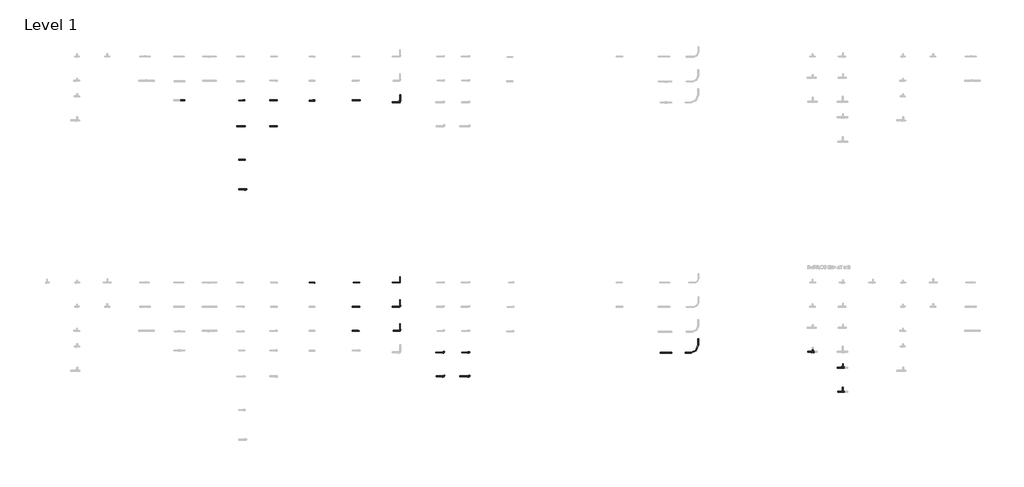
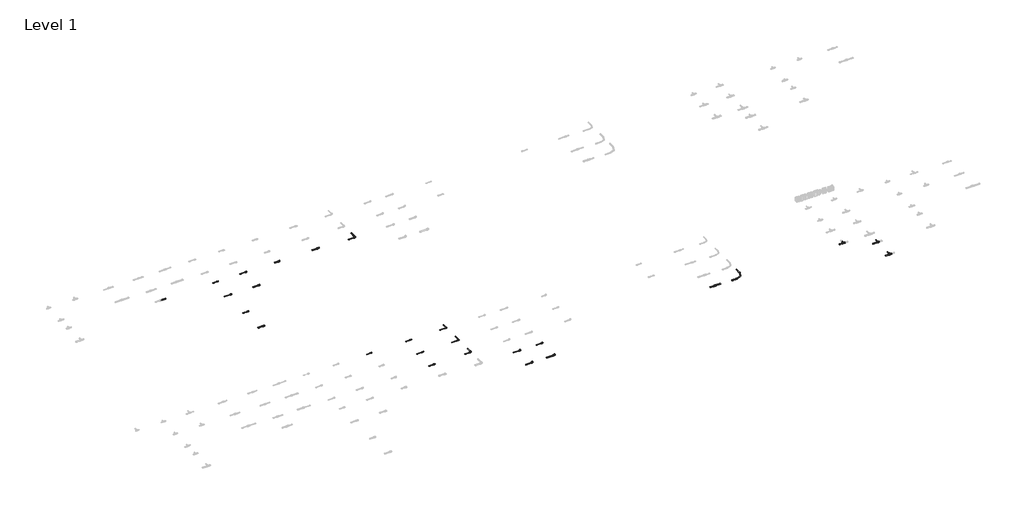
# One storey, part 4 of 16: 34 pipe segments, 26 pipe fittings.
"""IFC4 building model written with IfcOpenShell, lengths in millimetres."""

from ifc_helpers import new_model, si_unit, point, frame, frame_2d, origin, place, context, project, spatial, circle_curve, trimmed, segment, composite_curve, outline, extrude, transform, mapped, element, save
from components import pipe_fitting_5ed0d7cb, pipe_fitting_a2ce5f58, pipe_fitting_431f7250, pipe_fitting_a4fef31a, pipe_fitting_24cae873, pipe_fitting_792dd94b, pipe_fitting_a5f7744a, pipe_fitting_eea56ca5, pipe_fitting_715ab4bf, pipe_fitting_cb24982a, pipe_fitting_3031d961, pipe_fitting_ffedae39, pipe_fitting_7921c085, pipe_fitting_502111f3, pipe_fitting_137fcba6, pipe_fitting_792aeb1b, pipe_fitting_2cdc80e6, pipe_fitting_a8fbe6ac, pipe_fitting_fe659845, pipe_fitting_164b9098, pipe_fitting_15655edc, pipe_fitting_beb2161e, pipe_fitting_ca26b6f5, pipe_fitting_76e4ea32, pipe_fitting_18fcccac, pipe_fitting_1e296f3b

model = new_model("IFC4")

# Units and contexts
model_context = context("Model", 3, world=origin())
ifc_project = project(units=[si_unit("LENGTHUNIT", "METRE", prefix="MILLI")], contexts=[model_context])

# Site, building, storey
site = spatial("IfcSite", under=ifc_project)
building = spatial("IfcBuilding", under=site)
storey = spatial("IfcBuildingStorey", under=building, Name="Level 1", Elevation=0.0)

# Pipe fittings
placement = place(None, origin())
pipe_fitting_shape = pipe_fitting_5ed0d7cb(model_context)
element("IfcPipeFitting", 1, ObjectType="FASTLOC_Adapter_RX+, with external thread : FSL A C external EX+ DE", at=placement, inside=storey, context=model_context, shape_type="MappedRepresentation", body=[
    mapped(pipe_fitting_shape, transform((10098.2332092, -239.0537829, 0.0), x_axis=(1.0, 0.0, 0.0), y_axis=(0.0, 1.0, 0.0), z_axis=(0.0, 0.0, 1.0))),
])
pipe_fitting_2_shape = pipe_fitting_a2ce5f58(model_context)
element("IfcPipeFitting", 2, ObjectType="FASTLOC_Adapter_RX+, with external thread : FSL A C external EX+ DE", at=placement, inside=storey, context=model_context, shape_type="MappedRepresentation", body=[
    mapped(pipe_fitting_2_shape, transform((10110.8952889, -1099.407392, 0.0), x_axis=(1.0, 0.0, 0.0), y_axis=(0.0, 1.0, 0.0), z_axis=(0.0, 0.0, 1.0))),
])
pipe_fitting_3_shape = pipe_fitting_431f7250(model_context)
element("IfcPipeFitting", 3, ObjectType="FASTLOC_Adapter_RX+, with external thread : FSL A C external EX+ DE", at=placement, inside=storey, context=model_context, shape_type="MappedRepresentation", body=[
    mapped(pipe_fitting_3_shape, transform((10115.9601208, -2213.6704117, 0.0), x_axis=(1.0, 0.0, 0.0), y_axis=(0.0, 1.0, 0.0), z_axis=(0.0, 0.0, 1.0))),
])
pipe_fitting_4_shape = pipe_fitting_a4fef31a(model_context)
element("IfcPipeFitting", 4, ObjectType="FASTLOC_Adapter_RX+, with external thread : FSL A C external EX+ DE", at=placement, inside=storey, context=model_context, shape_type="MappedRepresentation", body=[
    mapped(pipe_fitting_4_shape, transform((10153.9463601, -3193.7153858, 0.0), x_axis=(1.0, 0.0, 0.0), y_axis=(0.0, 1.0, 0.0), z_axis=(0.0, 0.0, 1.0))),
])
pipe_fitting_5_shape = pipe_fitting_24cae873(model_context)
element("IfcPipeFitting", 5, ObjectType="FASTLOC_Corner EX+ : FSL C EX+ DE", at=placement, inside=storey, context=model_context, shape_type="MappedRepresentation", body=[
    mapped(pipe_fitting_5_shape, transform((15275.3824015, -304.9640428, 0.0), x_axis=(1.0, 0.0, 0.0), y_axis=(0.0, 1.0, 0.0), z_axis=(0.0, 0.0, 1.0))),
])
pipe_fitting_6_shape = pipe_fitting_792dd94b(model_context)
element("IfcPipeFitting", 6, ObjectType="FASTLOC_Corner EX+ : FSL C EX+ AT", at=placement, inside=storey, context=model_context, shape_type="MappedRepresentation", body=[
    mapped(pipe_fitting_6_shape, transform((15275.3824015, -7087.6479967, 0.0), x_axis=(1.0, 0.0, 0.0), y_axis=(0.0, 1.0, 0.0), z_axis=(0.0, 0.0, 1.0))),
])
pipe_fitting_7_shape = pipe_fitting_a5f7744a(model_context)
element("IfcPipeFitting", 7, ObjectType="FASTLOC_Corner EX+ : FSL C EX+ AT", at=placement, inside=storey, context=model_context, shape_type="MappedRepresentation", body=[
    mapped(pipe_fitting_7_shape, transform((15275.3824015, -7887.6479967, 0.0), x_axis=(1.0, 0.0, 0.0), y_axis=(0.0, 1.0, 0.0), z_axis=(0.0, 0.0, 1.0))),
])
pipe_fitting_8_shape = pipe_fitting_eea56ca5(model_context)
element("IfcPipeFitting", 8, ObjectType="FASTLOC_Elbow with female thread EX+ : FSL A internal AT", at=placement, inside=storey, context=model_context, shape_type="MappedRepresentation", body=[
    mapped(pipe_fitting_8_shape, transform((17573.8113057, -8604.9640428, 0.0), x_axis=(1.0, 0.0, 0.0), y_axis=(0.0, 1.0, 0.0), z_axis=(0.0, 0.0, 1.0))),
])
pipe_fitting_9_shape = pipe_fitting_715ab4bf(model_context)
element("IfcPipeFitting", 9, ObjectType="FASTLOC_Elbow with female thread EX+ : FSL A internal AT", at=placement, inside=storey, context=model_context, shape_type="MappedRepresentation", body=[
    mapped(pipe_fitting_9_shape, transform((17573.8113057, -9399.407392, 0.0), x_axis=(1.0, 0.0, 0.0), y_axis=(0.0, 1.0, 0.0), z_axis=(0.0, 0.0, 1.0))),
])
pipe_fitting_10_shape = pipe_fitting_cb24982a(model_context)
element("IfcPipeFitting", 10, ObjectType="FASTLOC_Elbow with male thread EX+ : FSL A internal AT", at=placement, inside=storey, context=model_context, shape_type="MappedRepresentation", body=[
    mapped(pipe_fitting_10_shape, transform((16735.3824015, -8604.9640428, 0.0), x_axis=(1.0, 0.0, 0.0), y_axis=(0.0, 1.0, 0.0), z_axis=(0.0, 0.0, 1.0))),
])
pipe_fitting_11_shape = pipe_fitting_3031d961(model_context)
element("IfcPipeFitting", 11, ObjectType="FASTLOC_Elbow with male thread EX+ : FSL A internal AT", at=placement, inside=storey, context=model_context, shape_type="MappedRepresentation", body=[
    mapped(pipe_fitting_11_shape, transform((16735.3824015, -9399.407392, 0.0), x_axis=(1.0, 0.0, 0.0), y_axis=(0.0, 1.0, 0.0), z_axis=(0.0, 0.0, 1.0))),
])
pipe_fitting_12_shape = pipe_fitting_ffedae39(model_context)
element("IfcPipeFitting", 12, ObjectType="FASTLOC_ML_bend : FSL ML DE", at=placement, inside=storey, context=model_context, shape_type="MappedRepresentation", body=[
    mapped(pipe_fitting_12_shape, transform((25170.2040344, -8611.8142398, 0.0), x_axis=(1.0, 0.0, 0.0), y_axis=(0.0, 1.0, 0.0), z_axis=(0.0, 0.0, 1.0))),
])
pipe_fitting_13_shape = pipe_fitting_7921c085(model_context)
element("IfcPipeFitting", 13, ObjectType="FASTLOC_T-piece_EX+ : FSL T-Piece EX+ AT", at=placement, inside=storey, context=model_context, shape_type="MappedRepresentation", body=[
    mapped(pipe_fitting_13_shape, transform((28962.9146925, -8587.6479967, 0.0), x_axis=(1.0, 0.0, 0.0), y_axis=(0.0, 1.0, 0.0), z_axis=(0.0, 0.0, 1.0))),
])
pipe_fitting_14_shape = pipe_fitting_502111f3(model_context)
element("IfcPipeFitting", 14, ObjectType="FASTLOC_T-piece_EX+ : FSL T-Piece EX+ AT", at=placement, inside=storey, context=model_context, shape_type="MappedRepresentation", body=[
    mapped(pipe_fitting_14_shape, transform((29962.9146925, -9107.6479967, 0.0), x_axis=(1.0, 0.0, 0.0), y_axis=(0.0, 1.0, 0.0), z_axis=(0.0, 0.0, 1.0))),
])
pipe_fitting_15_shape = pipe_fitting_137fcba6(model_context)
element("IfcPipeFitting", 15, ObjectType="FASTLOC_T-piece_EX+ : FSL T-Piece EX+ AT", at=placement, inside=storey, context=model_context, shape_type="MappedRepresentation", body=[
    mapped(pipe_fitting_15_shape, transform((29962.9146925, -9907.6479967, 0.0), x_axis=(1.0, 0.0, 0.0), y_axis=(0.0, 1.0, 0.0), z_axis=(0.0, 0.0, 1.0))),
])
pipe_fitting_16_shape = pipe_fitting_792aeb1b(model_context)
element("IfcPipeFitting", 16, ObjectType="FASTLOC_Corner EX+ : FSL C EX+ AT", at=placement, inside=storey, context=model_context, shape_type="MappedRepresentation", body=[
    mapped(pipe_fitting_16_shape, transform((15275.3824015, -6287.6479967, 0.0), x_axis=(1.0, 0.0, 0.0), y_axis=(0.0, 1.0, 0.0), z_axis=(0.0, 0.0, 1.0))),
])
pipe_fitting_17_shape = pipe_fitting_2cdc80e6(model_context)
element("IfcPipeFitting", 17, ObjectType="FASTLOC Copper press adapter RX+ : FSL RX+ AT", at=placement, inside=storey, context=model_context, shape_type="MappedRepresentation", body=[
    mapped(pipe_fitting_17_shape, transform((13915.3824015, -6287.6479967, 0.0), x_axis=(1.0, 0.0, 0.0), y_axis=(0.0, 1.0, 0.0), z_axis=(0.0, 0.0, 1.0))),
])
pipe_fitting_18_shape = pipe_fitting_a8fbe6ac(model_context)
element("IfcPipeFitting", 18, ObjectType="RAUTITAN_Sleeve PX : RTI S PX", at=placement, inside=storey, context=model_context, shape_type="MappedRepresentation", body=[
    mapped(pipe_fitting_18_shape, transform((24110.6241081, -8611.8142398, 13.7), x_axis=(1.0, 0.0, 0.0), y_axis=(0.0, 1.0, 0.0), z_axis=(0.0, 0.0, 1.0))),
])
pipe_fitting_19_shape = pipe_fitting_fe659845(model_context)
element("IfcPipeFitting", 19, ObjectType="FASTLOC Copper press adapter RX+ : FSL RX+ DE", at=placement, inside=storey, context=model_context, shape_type="MappedRepresentation", body=[
    mapped(pipe_fitting_19_shape, transform((13915.3824015, -239.0537829, 0.0), x_axis=(1.0, 0.0, 0.0), y_axis=(0.0, 1.0, 0.0), z_axis=(0.0, 0.0, 1.0))),
])
pipe_fitting_20_shape = pipe_fitting_164b9098(model_context)
element("IfcPipeFitting", 20, ObjectType="FASTLOC Copper press adapter RX+ : FSL RX+ AT", at=placement, inside=storey, context=model_context, shape_type="MappedRepresentation", body=[
    mapped(pipe_fitting_20_shape, transform((13915.3824015, -7087.6479967, 0.0), x_axis=(1.0, 0.0, 0.0), y_axis=(0.0, 1.0, 0.0), z_axis=(0.0, 0.0, 1.0))),
])
pipe_fitting_21_shape = pipe_fitting_15655edc(model_context)
element("IfcPipeFitting", 21, ObjectType="FASTLOC Copper press adapter RX+ : FSL RX+ AT", at=placement, inside=storey, context=model_context, shape_type="MappedRepresentation", body=[
    mapped(pipe_fitting_21_shape, transform((13895.3824015, -7887.6479967, 0.0), x_axis=(1.0, 0.0, 0.0), y_axis=(0.0, 1.0, 0.0), z_axis=(0.0, 0.0, 1.0))),
])
pipe_fitting_22_shape = pipe_fitting_beb2161e(model_context)
element("IfcPipeFitting", 22, ObjectType="FASTLOC_Adapter coupling EX+ : FSL TC EX+ AT", at=placement, inside=storey, context=model_context, shape_type="MappedRepresentation", body=[
    mapped(pipe_fitting_22_shape, transform((24091.3241081, -8611.8142398, 13.7), x_axis=(1.0, 0.0, 0.0), y_axis=(0.0, 1.0, 0.0), z_axis=(0.0, 0.0, 1.0))),
])
pipe_fitting_23_shape = pipe_fitting_ca26b6f5(model_context)
element("IfcPipeFitting", 23, ObjectType="FASTLOC_Adapter with union nut EX+ : FSL A union nut EX+ DE", at=placement, inside=storey, context=model_context, shape_type="MappedRepresentation", body=[
    mapped(pipe_fitting_23_shape, transform((12418.3503777, -6287.6479967, 0.0), x_axis=(1.0, 0.0, 0.0), y_axis=(0.0, 1.0, 0.0), z_axis=(0.0, 0.0, 1.0))),
])
pipe_fitting_24_shape = pipe_fitting_76e4ea32(model_context)
element("IfcPipeFitting", 24, ObjectType="FASTLOC_Adapter with union nut EX+ : FSL A union nut EX+ DE", at=placement, inside=storey, context=model_context, shape_type="MappedRepresentation", body=[
    mapped(pipe_fitting_24_shape, transform((12418.3503777, -247.0537829, 0.0), x_axis=(1.0, 0.0, 0.0), y_axis=(0.0, 1.0, 0.0), z_axis=(0.0, 0.0, 1.0))),
])
pipe_fitting_25_shape = pipe_fitting_18fcccac(model_context)
element("IfcPipeFitting", 25, ObjectType="FASTLOC_Adapter_EX+, with internal thread : FSL A internal DE", at=placement, inside=storey, context=model_context, shape_type="MappedRepresentation", body=[
    mapped(pipe_fitting_25_shape, transform((11179.5143796, -239.0537829, 0.0), x_axis=(1.0, 0.0, 0.0), y_axis=(0.0, 1.0, 0.0), z_axis=(0.0, 0.0, 1.0))),
])
pipe_fitting_26_shape = pipe_fitting_1e296f3b(model_context)
element("IfcPipeFitting", 26, ObjectType="FASTLOC_Adapter_EX+, with internal thread : FSL A internal DE", at=placement, inside=storey, context=model_context, shape_type="MappedRepresentation", body=[
    mapped(pipe_fitting_26_shape, transform((11179.5143796, -1099.407392, 0.0), x_axis=(1.0, 0.0, 0.0), y_axis=(0.0, 1.0, 0.0), z_axis=(0.0, 0.0, 1.0))),
])

# Pipe segments
element("IfcPipeSegment", 27, ObjectType="FASTLOC EX+ ML DE bar", at=placement, inside=storey, context=model_context, shape_type="SweptSolid", body=[
    extrude(outline(composite_curve([segment(trimmed(circle_curve(frame_2d((0.0, 15275.3824015)), 16.0), [point((0.0, 15291.3824015))], [point((16.0, 15275.3824015))], False, "CARTESIAN"), True, "CONTINUOUS"), segment(trimmed(circle_curve(frame_2d((0.0, 15275.3824015)), 16.0), [point((16.0, 15275.3824015))], [point((0.0, 15259.3824015))], False, "CARTESIAN"), True, "CONTINUOUS"), segment(trimmed(circle_curve(frame_2d((0.0, 15275.3824015)), 16.0), [point((0.0, 15259.3824015))], [point((-16.0, 15275.3824015))], False, "CARTESIAN"), True, "CONTINUOUS"), segment(trimmed(circle_curve(frame_2d((0.0, 15275.3824015)), 16.0), [point((-16.0, 15275.3824015))], [point((0.0, 15291.3824015))], False, "CARTESIAN"), True, "CONTINUOUS")], self_intersect=False)), frame((0.0, -269.9640428, 0.0), z_axis=(0.0, 1.0, 0.0), x_axis=(0.0, 0.0, 1.0)), (0.0, 0.0, 1.0), 220.0),
])
element("IfcPipeSegment", 28, ObjectType="FASTLOC EX+ ML DE bar", at=placement, inside=storey, context=model_context, shape_type="SweptSolid", body=[
    extrude(outline(composite_curve([segment(trimmed(circle_curve(frame_2d((-304.9640428, 0.0)), 16.0), [point((-288.9640428, 0.0))], [point((-304.9640428, -16.0))], False, "CARTESIAN"), True, "CONTINUOUS"), segment(trimmed(circle_curve(frame_2d((-304.9640428, 0.0)), 16.0), [point((-304.9640428, -16.0))], [point((-320.9640428, 0.0))], False, "CARTESIAN"), True, "CONTINUOUS"), segment(trimmed(circle_curve(frame_2d((-304.9640428, 0.0)), 16.0), [point((-320.9640428, 0.0))], [point((-304.9640428, 16.0))], False, "CARTESIAN"), True, "CONTINUOUS"), segment(trimmed(circle_curve(frame_2d((-304.9640428, 0.0)), 16.0), [point((-304.9640428, 16.0))], [point((-288.9640428, 0.0))], False, "CARTESIAN"), True, "CONTINUOUS")], self_intersect=False)), frame((15013.2824015, 0.0, 0.0), z_axis=(1.0, 0.0, 0.0), x_axis=(0.0, 1.0, 0.0)), (0.0, 0.0, 1.0), 227.1),
])
element("IfcPipeSegment", 29, ObjectType="FASTLOC EX+ ML DE bar", at=placement, inside=storey, context=model_context, shape_type="SweptSolid", body=[
    extrude(outline(composite_curve([segment(trimmed(circle_curve(frame_2d((-239.0537829, 0.0)), 16.0), [point((-223.0537829, 0.0))], [point((-239.0537829, -16.0))], False, "CARTESIAN"), True, "CONTINUOUS"), segment(trimmed(circle_curve(frame_2d((-239.0537829, 0.0)), 16.0), [point((-239.0537829, -16.0))], [point((-255.0537829, 0.0))], False, "CARTESIAN"), True, "CONTINUOUS"), segment(trimmed(circle_curve(frame_2d((-239.0537829, 0.0)), 16.0), [point((-255.0537829, 0.0))], [point((-239.0537829, 16.0))], False, "CARTESIAN"), True, "CONTINUOUS"), segment(trimmed(circle_curve(frame_2d((-239.0537829, 0.0)), 16.0), [point((-239.0537829, 16.0))], [point((-223.0537829, 0.0))], False, "CARTESIAN"), True, "CONTINUOUS")], self_intersect=False)), frame((13682.2824015, 0.0, 0.0), z_axis=(1.0, 0.0, 0.0), x_axis=(0.0, 1.0, 0.0)), (0.0, 0.0, 1.0), 220.0),
])
element("IfcPipeSegment", 30, ObjectType="FASTLOC EX+ ML DE bar", at=placement, inside=storey, context=model_context, shape_type="SweptSolid", body=[
    extrude(outline(composite_curve([segment(trimmed(circle_curve(frame_2d((-247.0537829, 0.0)), 16.0), [point((-231.0537829, 0.0))], [point((-247.0537829, -16.0))], False, "CARTESIAN"), True, "CONTINUOUS"), segment(trimmed(circle_curve(frame_2d((-247.0537829, 0.0)), 16.0), [point((-247.0537829, -16.0))], [point((-263.0537829, 0.0))], False, "CARTESIAN"), True, "CONTINUOUS"), segment(trimmed(circle_curve(frame_2d((-247.0537829, 0.0)), 16.0), [point((-263.0537829, 0.0))], [point((-247.0537829, 16.0))], False, "CARTESIAN"), True, "CONTINUOUS"), segment(trimmed(circle_curve(frame_2d((-247.0537829, 0.0)), 16.0), [point((-247.0537829, 16.0))], [point((-231.0537829, 0.0))], False, "CARTESIAN"), True, "CONTINUOUS")], self_intersect=False)), frame((12259.3503777, 0.0, 0.0), z_axis=(1.0, 0.0, 0.0), x_axis=(0.0, 1.0, 0.0)), (0.0, 0.0, 1.0), 147.5),
])
element("IfcPipeSegment", 31, ObjectType="FASTLOC EX+ ML DE bar", at=placement, inside=storey, context=model_context, shape_type="SweptSolid", body=[
    extrude(outline(composite_curve([segment(trimmed(circle_curve(frame_2d((-239.0537829, 0.0)), 12.5), [point((-226.5537829, 0.0))], [point((-239.0537829, -12.5))], False, "CARTESIAN"), True, "CONTINUOUS"), segment(trimmed(circle_curve(frame_2d((-239.0537829, 0.0)), 12.5), [point((-239.0537829, -12.5))], [point((-251.5537829, 0.0))], False, "CARTESIAN"), True, "CONTINUOUS"), segment(trimmed(circle_curve(frame_2d((-239.0537829, 0.0)), 12.5), [point((-251.5537829, 0.0))], [point((-239.0537829, 12.5))], False, "CARTESIAN"), True, "CONTINUOUS"), segment(trimmed(circle_curve(frame_2d((-239.0537829, 0.0)), 12.5), [point((-239.0537829, 12.5))], [point((-226.5537829, 0.0))], False, "CARTESIAN"), True, "CONTINUOUS")], self_intersect=False)), frame((10946.6143796, 0.0, 0.0), z_axis=(1.0, 0.0, 0.0), x_axis=(0.0, 1.0, 0.0)), (0.0, 0.0, 1.0), 220.0),
])
element("IfcPipeSegment", 32, ObjectType="FASTLOC EX+ ML DE bar", at=placement, inside=storey, context=model_context, shape_type="SweptSolid", body=[
    extrude(outline(composite_curve([segment(trimmed(circle_curve(frame_2d((-1099.407392, 0.0)), 16.0), [point((-1083.407392, 0.0))], [point((-1099.407392, -16.0))], False, "CARTESIAN"), True, "CONTINUOUS"), segment(trimmed(circle_curve(frame_2d((-1099.407392, 0.0)), 16.0), [point((-1099.407392, -16.0))], [point((-1115.407392, 0.0))], False, "CARTESIAN"), True, "CONTINUOUS"), segment(trimmed(circle_curve(frame_2d((-1099.407392, 0.0)), 16.0), [point((-1115.407392, 0.0))], [point((-1099.407392, 16.0))], False, "CARTESIAN"), True, "CONTINUOUS"), segment(trimmed(circle_curve(frame_2d((-1099.407392, 0.0)), 16.0), [point((-1099.407392, 16.0))], [point((-1083.407392, 0.0))], False, "CARTESIAN"), True, "CONTINUOUS")], self_intersect=False)), frame((10946.6143796, 0.0, 0.0), z_axis=(1.0, 0.0, 0.0), x_axis=(0.0, 1.0, 0.0)), (0.0, 0.0, 1.0), 218.4),
])
element("IfcPipeSegment", 33, ObjectType="FASTLOC EX+ ML DE bar", at=placement, inside=storey, context=model_context, shape_type="SweptSolid", body=[
    extrude(outline(composite_curve([segment(trimmed(circle_curve(frame_2d((-2213.6704117, 0.0)), 12.5), [point((-2201.1704117, 0.0))], [point((-2213.6704117, -12.5))], False, "CARTESIAN"), True, "CONTINUOUS"), segment(trimmed(circle_curve(frame_2d((-2213.6704117, 0.0)), 12.5), [point((-2213.6704117, -12.5))], [point((-2226.1704117, 0.0))], False, "CARTESIAN"), True, "CONTINUOUS"), segment(trimmed(circle_curve(frame_2d((-2213.6704117, 0.0)), 12.5), [point((-2226.1704117, 0.0))], [point((-2213.6704117, 12.5))], False, "CARTESIAN"), True, "CONTINUOUS"), segment(trimmed(circle_curve(frame_2d((-2213.6704117, 0.0)), 12.5), [point((-2213.6704117, 12.5))], [point((-2201.1704117, 0.0))], False, "CARTESIAN"), True, "CONTINUOUS")], self_intersect=False)), frame((9926.5601208, 0.0, 0.0), z_axis=(1.0, 0.0, 0.0), x_axis=(0.0, 1.0, 0.0)), (0.0, 0.0, 1.0), 180.0),
])
element("IfcPipeSegment", 34, ObjectType="FASTLOC EX+ ML DE bar", at=placement, inside=storey, context=model_context, shape_type="SweptSolid", body=[
    extrude(outline(composite_curve([segment(trimmed(circle_curve(frame_2d((-1099.407392, 0.0)), 12.5), [point((-1086.907392, 0.0))], [point((-1099.407392, -12.5))], False, "CARTESIAN"), True, "CONTINUOUS"), segment(trimmed(circle_curve(frame_2d((-1099.407392, 0.0)), 12.5), [point((-1099.407392, -12.5))], [point((-1111.907392, 0.0))], False, "CARTESIAN"), True, "CONTINUOUS"), segment(trimmed(circle_curve(frame_2d((-1099.407392, 0.0)), 12.5), [point((-1111.907392, 0.0))], [point((-1099.407392, 12.5))], False, "CARTESIAN"), True, "CONTINUOUS"), segment(trimmed(circle_curve(frame_2d((-1099.407392, 0.0)), 12.5), [point((-1099.407392, 12.5))], [point((-1086.907392, 0.0))], False, "CARTESIAN"), True, "CONTINUOUS")], self_intersect=False)), frame((9861.4952889, 0.0, 0.0), z_axis=(1.0, 0.0, 0.0), x_axis=(0.0, 1.0, 0.0)), (0.0, 0.0, 1.0), 240.0),
])
element("IfcPipeSegment", 35, ObjectType="FASTLOC EX+ ML DE bar", at=placement, inside=storey, context=model_context, shape_type="SweptSolid", body=[
    extrude(outline(composite_curve([segment(trimmed(circle_curve(frame_2d((-239.0537829, 0.0)), 10.0), [point((-229.0537829, 0.0))], [point((-239.0537829, -10.0))], False, "CARTESIAN"), True, "CONTINUOUS"), segment(trimmed(circle_curve(frame_2d((-239.0537829, 0.0)), 10.0), [point((-239.0537829, -10.0))], [point((-249.0537829, 0.0))], False, "CARTESIAN"), True, "CONTINUOUS"), segment(trimmed(circle_curve(frame_2d((-239.0537829, 0.0)), 10.0), [point((-249.0537829, 0.0))], [point((-239.0537829, 10.0))], False, "CARTESIAN"), True, "CONTINUOUS"), segment(trimmed(circle_curve(frame_2d((-239.0537829, 0.0)), 10.0), [point((-239.0537829, 10.0))], [point((-229.0537829, 0.0))], False, "CARTESIAN"), True, "CONTINUOUS")], self_intersect=False)), frame((9926.5601208, 0.0, 0.0), z_axis=(1.0, 0.0, 0.0), x_axis=(0.0, 1.0, 0.0)), (0.0, 0.0, 1.0), 162.3730883),
])
element("IfcPipeSegment", 36, ObjectType="FASTLOC EX+ ML DE bar", at=placement, inside=storey, context=model_context, shape_type="SweptSolid", body=[
    extrude(outline(composite_curve([segment(trimmed(circle_curve(frame_2d((-239.0537829, 0.0)), 16.0), [point((-255.0537829, 0.0))], [point((-239.0537829, 16.0))], False, "CARTESIAN"), True, "CONTINUOUS"), segment(trimmed(circle_curve(frame_2d((-239.0537829, 0.0)), 16.0), [point((-239.0537829, 16.0))], [point((-223.0537829, 0.0))], False, "CARTESIAN"), True, "CONTINUOUS"), segment(trimmed(circle_curve(frame_2d((-239.0537829, 0.0)), 16.0), [point((-223.0537829, 0.0))], [point((-239.0537829, -16.0))], False, "CARTESIAN"), True, "CONTINUOUS"), segment(trimmed(circle_curve(frame_2d((-239.0537829, 0.0)), 16.0), [point((-239.0537829, -16.0))], [point((-255.0537829, 0.0))], False, "CARTESIAN"), True, "CONTINUOUS")], self_intersect=False)), frame((7957.6401575, 0.0, 0.0), z_axis=(1.0, 0.0, 0.0), x_axis=(0.0, 1.0, 0.0)), (0.0, 0.0, 1.0), 178.0),
])
element("IfcPipeSegment", 37, ObjectType="FASTLOC EX+ ML DE bar", at=placement, inside=storey, context=model_context, shape_type="SweptSolid", body=[
    extrude(outline(composite_curve([segment(trimmed(circle_curve(frame_2d((-3193.7153858, 0.0)), 16.0), [point((-3177.7153858, 0.0))], [point((-3193.7153858, -16.0))], False, "CARTESIAN"), True, "CONTINUOUS"), segment(trimmed(circle_curve(frame_2d((-3193.7153858, 0.0)), 16.0), [point((-3193.7153858, -16.0))], [point((-3209.7153858, 0.0))], False, "CARTESIAN"), True, "CONTINUOUS"), segment(trimmed(circle_curve(frame_2d((-3193.7153858, 0.0)), 16.0), [point((-3209.7153858, 0.0))], [point((-3193.7153858, 16.0))], False, "CARTESIAN"), True, "CONTINUOUS"), segment(trimmed(circle_curve(frame_2d((-3193.7153858, 0.0)), 16.0), [point((-3193.7153858, 16.0))], [point((-3177.7153858, 0.0))], False, "CARTESIAN"), True, "CONTINUOUS")], self_intersect=False)), frame((9926.5601208, 0.0, 0.0), z_axis=(1.0, 0.0, 0.0), x_axis=(0.0, 1.0, 0.0)), (0.0, 0.0, 1.0), 212.7862393),
])
element("IfcPipeSegment", 38, ObjectType="FASTLOC EX+ ML AT bar", at=placement, inside=storey, context=model_context, shape_type="SweptSolid", body=[
    extrude(outline(composite_curve([segment(trimmed(circle_curve(frame_2d((0.0, 25170.2040344)), 16.0), [point((0.0, 25186.2040344))], [point((16.0, 25170.2040344))], False, "CARTESIAN"), True, "CONTINUOUS"), segment(trimmed(circle_curve(frame_2d((0.0, 25170.2040344)), 16.0), [point((16.0, 25170.2040344))], [point((0.0, 25154.2040344))], False, "CARTESIAN"), True, "CONTINUOUS"), segment(trimmed(circle_curve(frame_2d((0.0, 25170.2040344)), 16.0), [point((0.0, 25154.2040344))], [point((-16.0, 25170.2040344))], False, "CARTESIAN"), True, "CONTINUOUS"), segment(trimmed(circle_curve(frame_2d((0.0, 25170.2040344)), 16.0), [point((-16.0, 25170.2040344))], [point((0.0, 25186.2040344))], False, "CARTESIAN"), True, "CONTINUOUS")], self_intersect=False)), frame((0.0, -8355.8142398, 0.0), z_axis=(0.0, 1.0, 0.0), x_axis=(0.0, 0.0, 1.0)), (0.0, 0.0, 1.0), 200.0),
])
element("IfcPipeSegment", 39, ObjectType="FASTLOC EX+ ML AT bar", at=placement, inside=storey, context=model_context, shape_type="SweptSolid", body=[
    extrude(outline(composite_curve([segment(trimmed(circle_curve(frame_2d((-8611.8142398, 0.0)), 16.0), [point((-8595.8142398, 0.0))], [point((-8611.8142398, -16.0))], False, "CARTESIAN"), True, "CONTINUOUS"), segment(trimmed(circle_curve(frame_2d((-8611.8142398, 0.0)), 16.0), [point((-8611.8142398, -16.0))], [point((-8627.8142398, 0.0))], False, "CARTESIAN"), True, "CONTINUOUS"), segment(trimmed(circle_curve(frame_2d((-8611.8142398, 0.0)), 16.0), [point((-8627.8142398, 0.0))], [point((-8611.8142398, 16.0))], False, "CARTESIAN"), True, "CONTINUOUS"), segment(trimmed(circle_curve(frame_2d((-8611.8142398, 0.0)), 16.0), [point((-8611.8142398, 16.0))], [point((-8595.8142398, 0.0))], False, "CARTESIAN"), True, "CONTINUOUS")], self_intersect=False)), frame((24730.2040344, 0.0, 0.0), z_axis=(1.0, 0.0, 0.0), x_axis=(0.0, 1.0, 0.0)), (0.0, 0.0, 1.0), 184.0),
])
element("IfcPipeSegment", 40, ObjectType="FASTLOC EX+ ML AT bar", at=placement, inside=storey, context=model_context, shape_type="SweptSolid", body=[
    extrude(outline(composite_curve([segment(trimmed(circle_curve(frame_2d((-8611.8142398, 13.7)), 16.0), [point((-8627.8142398, 13.7))], [point((-8611.8142398, 29.7))], False, "CARTESIAN"), True, "CONTINUOUS"), segment(trimmed(circle_curve(frame_2d((-8611.8142398, 13.7)), 16.0), [point((-8611.8142398, 29.7))], [point((-8595.8142398, 13.7))], False, "CARTESIAN"), True, "CONTINUOUS"), segment(trimmed(circle_curve(frame_2d((-8611.8142398, 13.7)), 16.0), [point((-8595.8142398, 13.7))], [point((-8611.8142398, -2.3))], False, "CARTESIAN"), True, "CONTINUOUS"), segment(trimmed(circle_curve(frame_2d((-8611.8142398, 13.7)), 16.0), [point((-8611.8142398, -2.3))], [point((-8627.8142398, 13.7))], False, "CARTESIAN"), True, "CONTINUOUS")], self_intersect=False)), frame((24110.6241081, 0.0, 0.0), z_axis=(1.0, 0.0, 0.0), x_axis=(0.0, 1.0, 0.0)), (0.0, 0.0, 1.0), 180.0),
])
element("IfcPipeSegment", 41, ObjectType="FASTLOC EX+ ML AT bar", at=placement, inside=storey, context=model_context, shape_type="SweptSolid", body=[
    extrude(outline(composite_curve([segment(trimmed(circle_curve(frame_2d((-8611.8142398, 13.7)), 16.0), [point((-8595.8142398, 13.7))], [point((-8611.8142398, -2.3))], False, "CARTESIAN"), True, "CONTINUOUS"), segment(trimmed(circle_curve(frame_2d((-8611.8142398, 13.7)), 16.0), [point((-8611.8142398, -2.3))], [point((-8627.8142398, 13.7))], False, "CARTESIAN"), True, "CONTINUOUS"), segment(trimmed(circle_curve(frame_2d((-8611.8142398, 13.7)), 16.0), [point((-8627.8142398, 13.7))], [point((-8611.8142398, 29.7))], False, "CARTESIAN"), True, "CONTINUOUS"), segment(trimmed(circle_curve(frame_2d((-8611.8142398, 13.7)), 16.0), [point((-8611.8142398, 29.7))], [point((-8595.8142398, 13.7))], False, "CARTESIAN"), True, "CONTINUOUS")], self_intersect=False)), frame((23905.8241081, 0.0, 0.0), z_axis=(1.0, 0.0, 0.0), x_axis=(0.0, 1.0, 0.0)), (0.0, 0.0, 1.0), 180.0),
])
element("IfcPipeSegment", 42, ObjectType="FASTLOC EX+ ML AT bar", at=placement, inside=storey, context=model_context, shape_type="SweptSolid", body=[
    extrude(outline(composite_curve([segment(trimmed(circle_curve(frame_2d((-8604.9640428, 0.0)), 12.5), [point((-8592.4640428, 0.0))], [point((-8604.9640428, -12.5))], False, "CARTESIAN"), True, "CONTINUOUS"), segment(trimmed(circle_curve(frame_2d((-8604.9640428, 0.0)), 12.5), [point((-8604.9640428, -12.5))], [point((-8617.4640428, 0.0))], False, "CARTESIAN"), True, "CONTINUOUS"), segment(trimmed(circle_curve(frame_2d((-8604.9640428, 0.0)), 12.5), [point((-8617.4640428, 0.0))], [point((-8604.9640428, 12.5))], False, "CARTESIAN"), True, "CONTINUOUS"), segment(trimmed(circle_curve(frame_2d((-8604.9640428, 0.0)), 12.5), [point((-8604.9640428, 12.5))], [point((-8592.4640428, 0.0))], False, "CARTESIAN"), True, "CONTINUOUS")], self_intersect=False)), frame((17326.8113057, 0.0, 0.0), z_axis=(1.0, 0.0, 0.0), x_axis=(0.0, 1.0, 0.0)), (0.0, 0.0, 1.0), 220.0),
])
element("IfcPipeSegment", 43, ObjectType="FASTLOC EX+ ML AT bar", at=placement, inside=storey, context=model_context, shape_type="SweptSolid", body=[
    extrude(outline(composite_curve([segment(trimmed(circle_curve(frame_2d((-8604.9640428, 0.0)), 12.5), [point((-8592.4640428, 0.0))], [point((-8604.9640428, -12.5))], False, "CARTESIAN"), True, "CONTINUOUS"), segment(trimmed(circle_curve(frame_2d((-8604.9640428, 0.0)), 12.5), [point((-8604.9640428, -12.5))], [point((-8617.4640428, 0.0))], False, "CARTESIAN"), True, "CONTINUOUS"), segment(trimmed(circle_curve(frame_2d((-8604.9640428, 0.0)), 12.5), [point((-8617.4640428, 0.0))], [point((-8604.9640428, 12.5))], False, "CARTESIAN"), True, "CONTINUOUS"), segment(trimmed(circle_curve(frame_2d((-8604.9640428, 0.0)), 12.5), [point((-8604.9640428, 12.5))], [point((-8592.4640428, 0.0))], False, "CARTESIAN"), True, "CONTINUOUS")], self_intersect=False)), frame((16461.1824015, 0.0, 0.0), z_axis=(1.0, 0.0, 0.0), x_axis=(0.0, 1.0, 0.0)), (0.0, 0.0, 1.0), 250.0),
])
element("IfcPipeSegment", 44, ObjectType="FASTLOC EX+ ML AT bar", at=placement, inside=storey, context=model_context, shape_type="SweptSolid", body=[
    extrude(outline(composite_curve([segment(trimmed(circle_curve(frame_2d((-9399.407392, 0.0)), 16.0), [point((-9383.407392, 0.0))], [point((-9399.407392, -16.0))], False, "CARTESIAN"), True, "CONTINUOUS"), segment(trimmed(circle_curve(frame_2d((-9399.407392, 0.0)), 16.0), [point((-9399.407392, -16.0))], [point((-9415.407392, 0.0))], False, "CARTESIAN"), True, "CONTINUOUS"), segment(trimmed(circle_curve(frame_2d((-9399.407392, 0.0)), 16.0), [point((-9415.407392, 0.0))], [point((-9399.407392, 16.0))], False, "CARTESIAN"), True, "CONTINUOUS"), segment(trimmed(circle_curve(frame_2d((-9399.407392, 0.0)), 16.0), [point((-9399.407392, 16.0))], [point((-9383.407392, 0.0))], False, "CARTESIAN"), True, "CONTINUOUS")], self_intersect=False)), frame((16475.6824015, 0.0, 0.0), z_axis=(1.0, 0.0, 0.0), x_axis=(0.0, 1.0, 0.0)), (0.0, 0.0, 1.0), 230.0),
])
element("IfcPipeSegment", 45, ObjectType="FASTLOC EX+ ML AT bar", at=placement, inside=storey, context=model_context, shape_type="SweptSolid", body=[
    extrude(outline(composite_curve([segment(trimmed(circle_curve(frame_2d((-9399.407392, 0.0)), 16.0), [point((-9383.407392, 0.0))], [point((-9399.407392, -16.0))], False, "CARTESIAN"), True, "CONTINUOUS"), segment(trimmed(circle_curve(frame_2d((-9399.407392, 0.0)), 16.0), [point((-9399.407392, -16.0))], [point((-9415.407392, 0.0))], False, "CARTESIAN"), True, "CONTINUOUS"), segment(trimmed(circle_curve(frame_2d((-9399.407392, 0.0)), 16.0), [point((-9415.407392, 0.0))], [point((-9399.407392, 16.0))], False, "CARTESIAN"), True, "CONTINUOUS"), segment(trimmed(circle_curve(frame_2d((-9399.407392, 0.0)), 16.0), [point((-9399.407392, 16.0))], [point((-9383.407392, 0.0))], False, "CARTESIAN"), True, "CONTINUOUS")], self_intersect=False)), frame((17261.8113057, 0.0, 0.0), z_axis=(1.0, 0.0, 0.0), x_axis=(0.0, 1.0, 0.0)), (0.0, 0.0, 1.0), 280.0),
])
element("IfcPipeSegment", 46, ObjectType="FASTLOC EX+ ML AT bar", at=placement, inside=storey, context=model_context, shape_type="SweptSolid", body=[
    extrude(outline(composite_curve([segment(trimmed(circle_curve(frame_2d((-6287.6479967, 0.0)), 8.0), [point((-6279.6479967, 0.0))], [point((-6287.6479967, -8.0))], False, "CARTESIAN"), True, "CONTINUOUS"), segment(trimmed(circle_curve(frame_2d((-6287.6479967, 0.0)), 8.0), [point((-6287.6479967, -8.0))], [point((-6295.6479967, 0.0))], False, "CARTESIAN"), True, "CONTINUOUS"), segment(trimmed(circle_curve(frame_2d((-6287.6479967, 0.0)), 8.0), [point((-6295.6479967, 0.0))], [point((-6287.6479967, 8.0))], False, "CARTESIAN"), True, "CONTINUOUS"), segment(trimmed(circle_curve(frame_2d((-6287.6479967, 0.0)), 8.0), [point((-6287.6479967, 8.0))], [point((-6279.6479967, 0.0))], False, "CARTESIAN"), True, "CONTINUOUS")], self_intersect=False)), frame((15013.2824015, 0.0, 0.0), z_axis=(1.0, 0.0, 0.0), x_axis=(0.0, 1.0, 0.0)), (0.0, 0.0, 1.0), 240.0),
])
element("IfcPipeSegment", 47, ObjectType="FASTLOC EX+ ML AT bar", at=placement, inside=storey, context=model_context, shape_type="SweptSolid", body=[
    extrude(outline(composite_curve([segment(trimmed(circle_curve(frame_2d((-7087.6479967, 0.0)), 10.0), [point((-7077.6479967, 0.0))], [point((-7087.6479967, -10.0))], False, "CARTESIAN"), True, "CONTINUOUS"), segment(trimmed(circle_curve(frame_2d((-7087.6479967, 0.0)), 10.0), [point((-7087.6479967, -10.0))], [point((-7097.6479967, 0.0))], False, "CARTESIAN"), True, "CONTINUOUS"), segment(trimmed(circle_curve(frame_2d((-7087.6479967, 0.0)), 10.0), [point((-7097.6479967, 0.0))], [point((-7087.6479967, 10.0))], False, "CARTESIAN"), True, "CONTINUOUS"), segment(trimmed(circle_curve(frame_2d((-7087.6479967, 0.0)), 10.0), [point((-7087.6479967, 10.0))], [point((-7077.6479967, 0.0))], False, "CARTESIAN"), True, "CONTINUOUS")], self_intersect=False)), frame((15013.2824015, 0.0, 0.0), z_axis=(1.0, 0.0, 0.0), x_axis=(0.0, 1.0, 0.0)), (0.0, 0.0, 1.0), 237.5),
])
element("IfcPipeSegment", 48, ObjectType="FASTLOC EX+ ML AT bar", at=placement, inside=storey, context=model_context, shape_type="SweptSolid", body=[
    extrude(outline(composite_curve([segment(trimmed(circle_curve(frame_2d((0.0, 15275.3824015)), 10.0), [point((0.0, 15285.3824015))], [point((10.0, 15275.3824015))], False, "CARTESIAN"), True, "CONTINUOUS"), segment(trimmed(circle_curve(frame_2d((0.0, 15275.3824015)), 10.0), [point((10.0, 15275.3824015))], [point((0.0, 15265.3824015))], False, "CARTESIAN"), True, "CONTINUOUS"), segment(trimmed(circle_curve(frame_2d((0.0, 15275.3824015)), 10.0), [point((0.0, 15265.3824015))], [point((-10.0, 15275.3824015))], False, "CARTESIAN"), True, "CONTINUOUS"), segment(trimmed(circle_curve(frame_2d((0.0, 15275.3824015)), 10.0), [point((-10.0, 15275.3824015))], [point((0.0, 15285.3824015))], False, "CARTESIAN"), True, "CONTINUOUS")], self_intersect=False)), frame((0.0, -7063.0479967, 0.0), z_axis=(0.0, 1.0, 0.0), x_axis=(0.0, 0.0, 1.0)), (0.0, 0.0, 1.0), 200.0),
])
element("IfcPipeSegment", 49, ObjectType="FASTLOC EX+ ML AT bar", at=placement, inside=storey, context=model_context, shape_type="SweptSolid", body=[
    extrude(outline(composite_curve([segment(trimmed(circle_curve(frame_2d((0.0, 15275.3824015)), 8.0), [point((0.0, 15283.3824015))], [point((8.0, 15275.3824015))], False, "CARTESIAN"), True, "CONTINUOUS"), segment(trimmed(circle_curve(frame_2d((0.0, 15275.3824015)), 8.0), [point((8.0, 15275.3824015))], [point((0.0, 15267.3824015))], False, "CARTESIAN"), True, "CONTINUOUS"), segment(trimmed(circle_curve(frame_2d((0.0, 15275.3824015)), 8.0), [point((0.0, 15267.3824015))], [point((-8.0, 15275.3824015))], False, "CARTESIAN"), True, "CONTINUOUS"), segment(trimmed(circle_curve(frame_2d((0.0, 15275.3824015)), 8.0), [point((-8.0, 15275.3824015))], [point((0.0, 15283.3824015))], False, "CARTESIAN"), True, "CONTINUOUS")], self_intersect=False)), frame((0.0, -6265.5479967, 0.0), z_axis=(0.0, 1.0, 0.0), x_axis=(0.0, 0.0, 1.0)), (0.0, 0.0, 1.0), 180.0),
])
element("IfcPipeSegment", 50, ObjectType="FASTLOC EX+ ML AT bar", at=placement, inside=storey, context=model_context, shape_type="SweptSolid", body=[
    extrude(outline(composite_curve([segment(trimmed(circle_curve(frame_2d((0.0, 15275.3824015)), 12.5), [point((0.0, 15287.8824015))], [point((12.5, 15275.3824015))], False, "CARTESIAN"), True, "CONTINUOUS"), segment(trimmed(circle_curve(frame_2d((0.0, 15275.3824015)), 12.5), [point((12.5, 15275.3824015))], [point((0.0, 15262.8824015))], False, "CARTESIAN"), True, "CONTINUOUS"), segment(trimmed(circle_curve(frame_2d((0.0, 15275.3824015)), 12.5), [point((0.0, 15262.8824015))], [point((-12.5, 15275.3824015))], False, "CARTESIAN"), True, "CONTINUOUS"), segment(trimmed(circle_curve(frame_2d((0.0, 15275.3824015)), 12.5), [point((-12.5, 15275.3824015))], [point((0.0, 15287.8824015))], False, "CARTESIAN"), True, "CONTINUOUS")], self_intersect=False)), frame((0.0, -7858.6479967, 0.0), z_axis=(0.0, 1.0, 0.0), x_axis=(0.0, 0.0, 1.0)), (0.0, 0.0, 1.0), 200.0),
])
element("IfcPipeSegment", 51, ObjectType="FASTLOC EX+ ML AT bar", at=placement, inside=storey, context=model_context, shape_type="SweptSolid", body=[
    extrude(outline(composite_curve([segment(trimmed(circle_curve(frame_2d((-7887.6479967, 0.0)), 12.5), [point((-7875.1479967, 0.0))], [point((-7887.6479967, -12.5))], False, "CARTESIAN"), True, "CONTINUOUS"), segment(trimmed(circle_curve(frame_2d((-7887.6479967, 0.0)), 12.5), [point((-7887.6479967, -12.5))], [point((-7900.1479967, 0.0))], False, "CARTESIAN"), True, "CONTINUOUS"), segment(trimmed(circle_curve(frame_2d((-7887.6479967, 0.0)), 12.5), [point((-7900.1479967, 0.0))], [point((-7887.6479967, 12.5))], False, "CARTESIAN"), True, "CONTINUOUS"), segment(trimmed(circle_curve(frame_2d((-7887.6479967, 0.0)), 12.5), [point((-7887.6479967, 12.5))], [point((-7875.1479967, 0.0))], False, "CARTESIAN"), True, "CONTINUOUS")], self_intersect=False)), frame((15046.3824015, 0.0, 0.0), z_axis=(1.0, 0.0, 0.0), x_axis=(0.0, 1.0, 0.0)), (0.0, 0.0, 1.0), 200.0),
])
element("IfcPipeSegment", 52, ObjectType="FASTLOC EX+ ML AT bar", at=placement, inside=storey, context=model_context, shape_type="SweptSolid", body=[
    extrude(outline(composite_curve([segment(trimmed(circle_curve(frame_2d((-7887.6479967, 0.0)), 12.5), [point((-7875.1479967, 0.0))], [point((-7887.6479967, -12.5))], False, "CARTESIAN"), True, "CONTINUOUS"), segment(trimmed(circle_curve(frame_2d((-7887.6479967, 0.0)), 12.5), [point((-7887.6479967, -12.5))], [point((-7900.1479967, 0.0))], False, "CARTESIAN"), True, "CONTINUOUS"), segment(trimmed(circle_curve(frame_2d((-7887.6479967, 0.0)), 12.5), [point((-7900.1479967, 0.0))], [point((-7887.6479967, 12.5))], False, "CARTESIAN"), True, "CONTINUOUS"), segment(trimmed(circle_curve(frame_2d((-7887.6479967, 0.0)), 12.5), [point((-7887.6479967, 12.5))], [point((-7875.1479967, 0.0))], False, "CARTESIAN"), True, "CONTINUOUS")], self_intersect=False)), frame((13682.2824015, 0.0, 0.0), z_axis=(1.0, 0.0, 0.0), x_axis=(0.0, 1.0, 0.0)), (0.0, 0.0, 1.0), 202.5),
])
element("IfcPipeSegment", 53, ObjectType="FASTLOC EX+ ML AT bar", at=placement, inside=storey, context=model_context, shape_type="SweptSolid", body=[
    extrude(outline(composite_curve([segment(trimmed(circle_curve(frame_2d((-7087.6479967, 0.0)), 10.0), [point((-7077.6479967, 0.0))], [point((-7087.6479967, -10.0))], False, "CARTESIAN"), True, "CONTINUOUS"), segment(trimmed(circle_curve(frame_2d((-7087.6479967, 0.0)), 10.0), [point((-7087.6479967, -10.0))], [point((-7097.6479967, 0.0))], False, "CARTESIAN"), True, "CONTINUOUS"), segment(trimmed(circle_curve(frame_2d((-7087.6479967, 0.0)), 10.0), [point((-7097.6479967, 0.0))], [point((-7087.6479967, 10.0))], False, "CARTESIAN"), True, "CONTINUOUS"), segment(trimmed(circle_curve(frame_2d((-7087.6479967, 0.0)), 10.0), [point((-7087.6479967, 10.0))], [point((-7077.6479967, 0.0))], False, "CARTESIAN"), True, "CONTINUOUS")], self_intersect=False)), frame((13682.2824015, 0.0, 0.0), z_axis=(1.0, 0.0, 0.0), x_axis=(0.0, 1.0, 0.0)), (0.0, 0.0, 1.0), 223.9),
])
element("IfcPipeSegment", 54, ObjectType="FASTLOC EX+ ML AT bar", at=placement, inside=storey, context=model_context, shape_type="SweptSolid", body=[
    extrude(outline(composite_curve([segment(trimmed(circle_curve(frame_2d((-6287.6479967, 0.0)), 8.0), [point((-6279.6479967, 0.0))], [point((-6287.6479967, -8.0))], False, "CARTESIAN"), True, "CONTINUOUS"), segment(trimmed(circle_curve(frame_2d((-6287.6479967, 0.0)), 8.0), [point((-6287.6479967, -8.0))], [point((-6295.6479967, 0.0))], False, "CARTESIAN"), True, "CONTINUOUS"), segment(trimmed(circle_curve(frame_2d((-6287.6479967, 0.0)), 8.0), [point((-6295.6479967, 0.0))], [point((-6287.6479967, 8.0))], False, "CARTESIAN"), True, "CONTINUOUS"), segment(trimmed(circle_curve(frame_2d((-6287.6479967, 0.0)), 8.0), [point((-6287.6479967, 8.0))], [point((-6279.6479967, 0.0))], False, "CARTESIAN"), True, "CONTINUOUS")], self_intersect=False)), frame((13726.4824015, 0.0, 0.0), z_axis=(1.0, 0.0, 0.0), x_axis=(0.0, 1.0, 0.0)), (0.0, 0.0, 1.0), 180.0),
])
element("IfcPipeSegment", 55, ObjectType="FASTLOC EX+ ML AT bar", at=placement, inside=storey, context=model_context, shape_type="SweptSolid", body=[
    extrude(outline(composite_curve([segment(trimmed(circle_curve(frame_2d((-6287.6479967, 0.0)), 8.0), [point((-6279.6479967, 0.0))], [point((-6287.6479967, -8.0))], False, "CARTESIAN"), True, "CONTINUOUS"), segment(trimmed(circle_curve(frame_2d((-6287.6479967, 0.0)), 8.0), [point((-6287.6479967, -8.0))], [point((-6295.6479967, 0.0))], False, "CARTESIAN"), True, "CONTINUOUS"), segment(trimmed(circle_curve(frame_2d((-6287.6479967, 0.0)), 8.0), [point((-6295.6479967, 0.0))], [point((-6287.6479967, 8.0))], False, "CARTESIAN"), True, "CONTINUOUS"), segment(trimmed(circle_curve(frame_2d((-6287.6479967, 0.0)), 8.0), [point((-6287.6479967, 8.0))], [point((-6279.6479967, 0.0))], False, "CARTESIAN"), True, "CONTINUOUS")], self_intersect=False)), frame((12259.3503777, 0.0, 0.0), z_axis=(1.0, 0.0, 0.0), x_axis=(0.0, 1.0, 0.0)), (0.0, 0.0, 1.0), 150.0),
])
element("IfcPipeSegment", 56, ObjectType="FASTLOC EX+ ML AT coil", at=placement, inside=storey, context=model_context, shape_type="SweptSolid", body=[
    extrude(outline(composite_curve([segment(trimmed(circle_curve(frame_2d((-9107.6479967, 0.0)), 16.0), [point((-9091.6479967, 0.0))], [point((-9107.6479967, -16.0))], False, "CARTESIAN"), True, "CONTINUOUS"), segment(trimmed(circle_curve(frame_2d((-9107.6479967, 0.0)), 16.0), [point((-9107.6479967, -16.0))], [point((-9123.6479967, 0.0))], False, "CARTESIAN"), True, "CONTINUOUS"), segment(trimmed(circle_curve(frame_2d((-9107.6479967, 0.0)), 16.0), [point((-9123.6479967, 0.0))], [point((-9107.6479967, 16.0))], False, "CARTESIAN"), True, "CONTINUOUS"), segment(trimmed(circle_curve(frame_2d((-9107.6479967, 0.0)), 16.0), [point((-9107.6479967, 16.0))], [point((-9091.6479967, 0.0))], False, "CARTESIAN"), True, "CONTINUOUS")], self_intersect=False)), frame((29773.1146925, 0.0, 0.0), z_axis=(1.0, 0.0, 0.0), x_axis=(0.0, 1.0, 0.0)), (0.0, 0.0, 1.0), 169.6),
])
element("IfcPipeSegment", 57, ObjectType="FASTLOC EX+ ML AT coil", at=placement, inside=storey, context=model_context, shape_type="SweptSolid", body=[
    extrude(outline(composite_curve([segment(trimmed(circle_curve(frame_2d((0.0, 29962.9146925)), 10.0), [point((0.0, 29972.9146925))], [point((10.0, 29962.9146925))], False, "CARTESIAN"), True, "CONTINUOUS"), segment(trimmed(circle_curve(frame_2d((0.0, 29962.9146925)), 10.0), [point((10.0, 29962.9146925))], [point((0.0, 29952.9146925))], False, "CARTESIAN"), True, "CONTINUOUS"), segment(trimmed(circle_curve(frame_2d((0.0, 29962.9146925)), 10.0), [point((0.0, 29952.9146925))], [point((-10.0, 29962.9146925))], False, "CARTESIAN"), True, "CONTINUOUS"), segment(trimmed(circle_curve(frame_2d((0.0, 29962.9146925)), 10.0), [point((-10.0, 29962.9146925))], [point((0.0, 29972.9146925))], False, "CARTESIAN"), True, "CONTINUOUS")], self_intersect=False)), frame((0.0, -9073.6479967, 0.0), z_axis=(0.0, 1.0, 0.0), x_axis=(0.0, 0.0, 1.0)), (0.0, 0.0, 1.0), 90.0),
])
element("IfcPipeSegment", 58, ObjectType="FASTLOC EX+ ML AT coil", at=placement, inside=storey, context=model_context, shape_type="SweptSolid", body=[
    extrude(outline(composite_curve([segment(trimmed(circle_curve(frame_2d((-9907.6479967, 0.0)), 16.0), [point((-9891.6479967, 0.0))], [point((-9907.6479967, -16.0))], False, "CARTESIAN"), True, "CONTINUOUS"), segment(trimmed(circle_curve(frame_2d((-9907.6479967, 0.0)), 16.0), [point((-9907.6479967, -16.0))], [point((-9923.6479967, 0.0))], False, "CARTESIAN"), True, "CONTINUOUS"), segment(trimmed(circle_curve(frame_2d((-9907.6479967, 0.0)), 16.0), [point((-9923.6479967, 0.0))], [point((-9907.6479967, 16.0))], False, "CARTESIAN"), True, "CONTINUOUS"), segment(trimmed(circle_curve(frame_2d((-9907.6479967, 0.0)), 16.0), [point((-9907.6479967, 16.0))], [point((-9891.6479967, 0.0))], False, "CARTESIAN"), True, "CONTINUOUS")], self_intersect=False)), frame((29795.9146925, 0.0, 0.0), z_axis=(1.0, 0.0, 0.0), x_axis=(0.0, 1.0, 0.0)), (0.0, 0.0, 1.0), 145.0),
])
element("IfcPipeSegment", 59, ObjectType="FASTLOC EX+ ML AT coil", at=placement, inside=storey, context=model_context, shape_type="SweptSolid", body=[
    extrude(outline(composite_curve([segment(trimmed(circle_curve(frame_2d((0.0, 29962.9146925)), 12.5), [point((0.0, 29975.4146925))], [point((12.5, 29962.9146925))], False, "CARTESIAN"), True, "CONTINUOUS"), segment(trimmed(circle_curve(frame_2d((0.0, 29962.9146925)), 12.5), [point((12.5, 29962.9146925))], [point((0.0, 29950.4146925))], False, "CARTESIAN"), True, "CONTINUOUS"), segment(trimmed(circle_curve(frame_2d((0.0, 29962.9146925)), 12.5), [point((0.0, 29950.4146925))], [point((-12.5, 29962.9146925))], False, "CARTESIAN"), True, "CONTINUOUS"), segment(trimmed(circle_curve(frame_2d((0.0, 29962.9146925)), 12.5), [point((-12.5, 29962.9146925))], [point((0.0, 29975.4146925))], False, "CARTESIAN"), True, "CONTINUOUS")], self_intersect=False)), frame((0.0, -9873.2479967, 0.0), z_axis=(0.0, 1.0, 0.0), x_axis=(0.0, 0.0, 1.0)), (0.0, 0.0, 1.0), 120.0),
])
element("IfcPipeSegment", 60, ObjectType="FASTLOC EX+ ML AT coil", at=placement, inside=storey, context=model_context, shape_type="SweptSolid", body=[
    extrude(outline(composite_curve([segment(trimmed(circle_curve(frame_2d((-8587.6479967, 0.0)), 16.0), [point((-8571.6479967, 0.0))], [point((-8587.6479967, -16.0))], False, "CARTESIAN"), True, "CONTINUOUS"), segment(trimmed(circle_curve(frame_2d((-8587.6479967, 0.0)), 16.0), [point((-8587.6479967, -16.0))], [point((-8603.6479967, 0.0))], False, "CARTESIAN"), True, "CONTINUOUS"), segment(trimmed(circle_curve(frame_2d((-8587.6479967, 0.0)), 16.0), [point((-8603.6479967, 0.0))], [point((-8587.6479967, 16.0))], False, "CARTESIAN"), True, "CONTINUOUS"), segment(trimmed(circle_curve(frame_2d((-8587.6479967, 0.0)), 16.0), [point((-8587.6479967, 16.0))], [point((-8571.6479967, 0.0))], False, "CARTESIAN"), True, "CONTINUOUS")], self_intersect=False)), frame((28803.1146925, 0.0, 0.0), z_axis=(1.0, 0.0, 0.0), x_axis=(0.0, 1.0, 0.0)), (0.0, 0.0, 1.0), 135.0),
])

save(model, "model.ifc")
